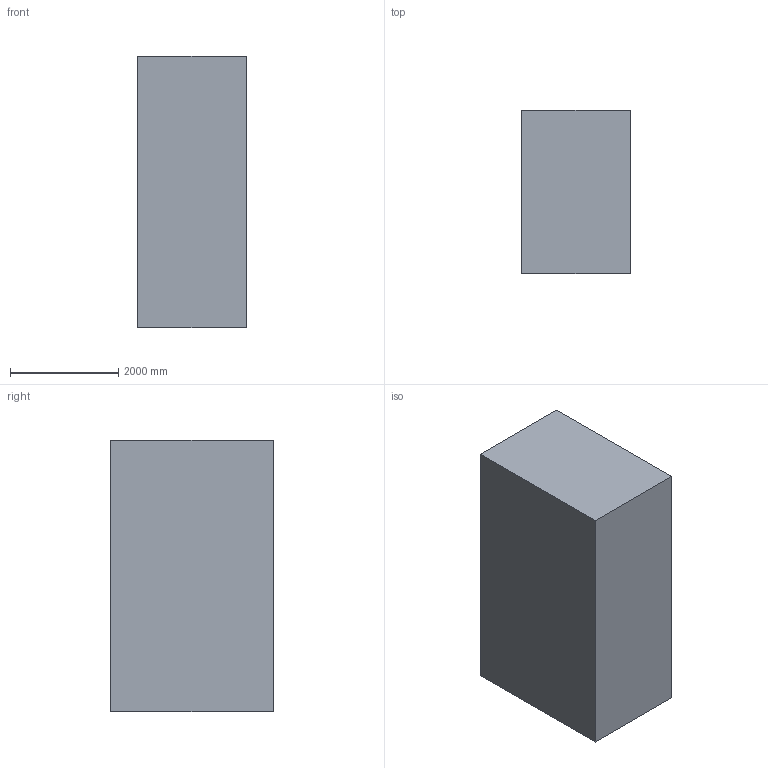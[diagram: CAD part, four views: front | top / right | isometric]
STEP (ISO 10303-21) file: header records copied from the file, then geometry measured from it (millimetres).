
FILE_DESCRIPTION(('cad_broken'),'2;1');
FILE_NAME('cad_broken','1970-01-01T00:00:00',('OmniBlick --selftest'),(''),'OmniBlick','OmniBlick','');
FILE_SCHEMA(('AUTOMOTIVE_DESIGN { 1 0 10303 214 3 1 1 1 }'));
Length unit declared in the file: millimetre
Products named in the file (1): box
Bounding box: 2000 x 3000 x 5000 mm (x, y, z)
Surface area: 62000000 mm2 (no closed solid volume)
Topology: 0 solids, 6 shells, 6 faces, 24 edges, 24 vertices
Faces by surface type: plane 6
Entity records: 257 total; most frequent: CARTESIAN_POINT 55, DIRECTION 38, VERTEX_POINT 24, VECTOR 24, LINE 24, EDGE_CURVE 24, ORIENTED_EDGE 24, AXIS2_PLACEMENT_3D 7
